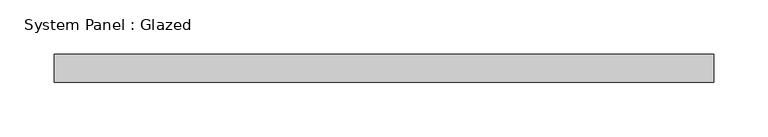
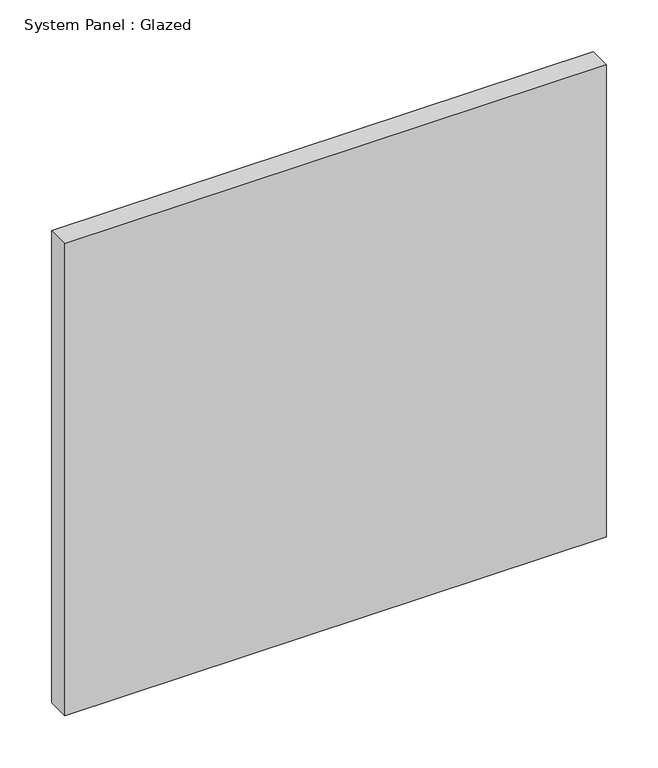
"""IFC4 building model written with IfcOpenShell, lengths in millimetres: plate geometry, System Panel : Glazed."""

from ifc_helpers import new_model, si_unit, origin, origin_with_axes, place, context, project, spatial, polyline, outline, extrude, source, transform, mapped, element, save


def system_panel_glazed_11270c83(model_context):
    return source(origin(), model_context, "Body", "SweptSolid", [
        extrude(outline(polyline([(302.9999409, -12.7), (-302.9999409, -12.7), (-302.9999409, 12.7), (302.9999409, 12.7), (302.9999409, -12.7)])), origin_with_axes(), (0.0, 0.0, 1.0), 558.8),
    ])


if __name__ == "__main__":
    model = new_model("IFC4")
    model_context = context("Model", 3, world=origin())
    ifc_project = project(units=[si_unit("LENGTHUNIT", "METRE", prefix="MILLI")], contexts=[model_context])
    site = spatial("IfcSite", under=ifc_project)
    building = spatial("IfcBuilding", under=site)
    placement = place(None, origin())
    system_panel_glazed_shape = system_panel_glazed_11270c83(model_context)
    element("IfcPlate", 1, ObjectType="System Panel : Glazed", at=placement, inside=building, context=model_context, shape_type="MappedRepresentation", body=[
        mapped(system_panel_glazed_shape, transform((0.0, 0.0, 0.0), x_axis=(1.0, 0.0, 0.0), y_axis=(0.0, 1.0, 0.0), z_axis=(0.0, 0.0, 1.0))),
    ])
    save(model, "model.ifc")
